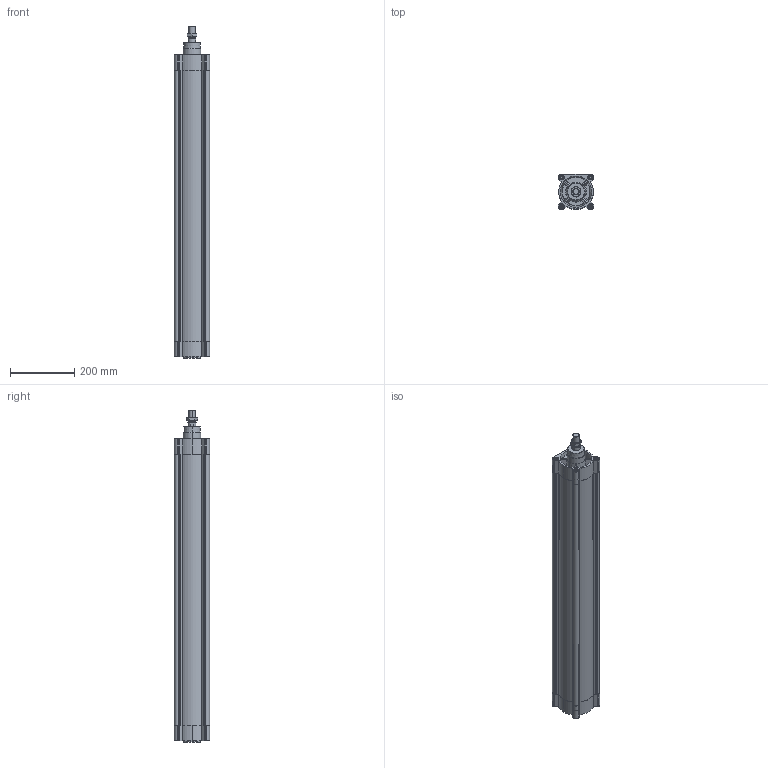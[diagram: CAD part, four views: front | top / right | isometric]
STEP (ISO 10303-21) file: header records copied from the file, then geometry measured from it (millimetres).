
FILE_DESCRIPTION (( 'STEP AP203' ), '1' );
FILE_NAME ('CPME100-800.STEP', '2024-04-18T10:35:22', ( '' ), ( '' ), 'SwSTEP 2.0', 'SolidWorks 2019', '' );
FILE_SCHEMA (( 'CONFIG_CONTROL_DESIGN' ));
Length unit declared in the file: millimetre
Products named in the file (1): CPME100-800
Bounding box: 110 x 110 x 1031.5 mm (x, y, z)
Volume: 3908951.7 mm3; surface area: 939634.5 mm2
Topology: 3 solids, 3 shells, 537 faces, 1365 edges, 874 vertices
Faces by surface type: cylinder 206, plane 205, cone 98, torus 28
Entity records: 18896 total; most frequent: CARTESIAN_POINT 5784, DIRECTION 2761, ORIENTED_EDGE 2730, EDGE_CURVE 1365, AXIS2_PLACEMENT_3D 1049, VERTEX_POINT 874, LINE 663, VECTOR 663
